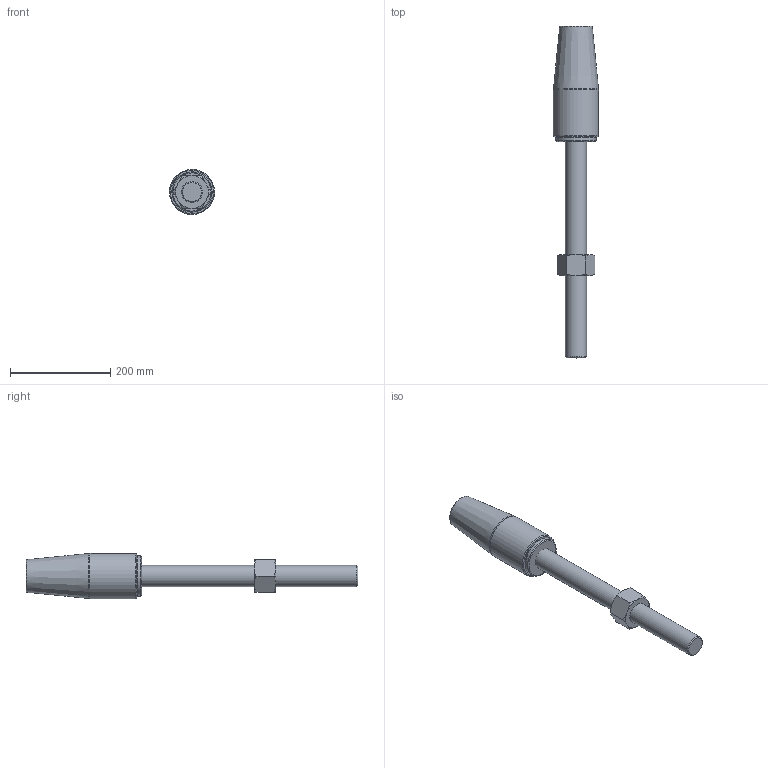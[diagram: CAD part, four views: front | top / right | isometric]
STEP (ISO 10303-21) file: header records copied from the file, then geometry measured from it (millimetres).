
FILE_DESCRIPTION(/* description */ (''),/* implementation_level */ '2;1');
FILE_NAME(/* name */ 'D:\Clienti\Redaelli (inventor)\CYB\STEP\Arrangement\CYB028 52 061 0.stp',/* time_stamp */ '2021-05-08T14:31:21+02:00',/* author */ ('fabri'),/* organization */ (''),/* preprocessor_version */ 'ST-DEVELOPER v16.13',/* originating_system */ 'Autodesk Inventor 2018',/* authorisation */ '');
FILE_SCHEMA (('AUTOMOTIVE_DESIGN { 1 0 10303 214 3 1 1 }'));
Length unit declared in the file: millimetre
Products named in the file (5): CYB012-52-061-0; RNT028 41 051 0_ROD; UNI 5587 - M42 x 3; CCY021-51-061-0_BUSH; CCY021-51-061-0
Assembly tree (4 placements, depth 2):
  CYB012-52-061-0
    RNT028 41 051 0_ROD
    UNI 5587 - M42 x 3
    CCY021-51-061-0_BUSH
    CCY021-51-061-0
Bounding box: 89.7 x 661 x 89.7 mm (x, y, z)
Volume: 2146332.6 mm3; surface area: 184544.1 mm2
Topology: 4 solids, 4 shells, 724 faces, 1929 edges, 1279 vertices
Faces by surface type: bspline 404, plane 290, cone 19, cylinder 7, torus 4
Full cylindrical faces by diameter (mm): 38.752 x2, 42 x1, 58 x1, 64 x1, 80 x1, 90 x1
Entity records: 24545 total; most frequent: CARTESIAN_POINT 9234, ORIENTED_EDGE 3818, EDGE_CURVE 1909, DIRECTION 1775, VERTEX_POINT 1277, LINE 1039, VECTOR 1039, EDGE_LOOP 812
